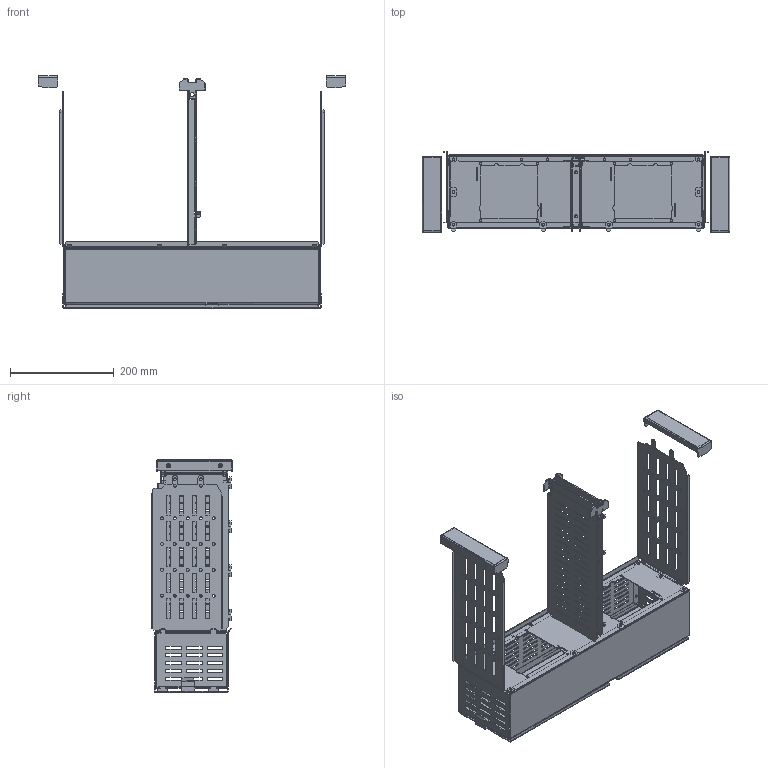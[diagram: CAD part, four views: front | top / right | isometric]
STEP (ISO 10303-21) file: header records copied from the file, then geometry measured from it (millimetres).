
FILE_DESCRIPTION(('CAx-IF Rec.Pracs.---Model Styling and Organization---1.2---2011-12-15','CAx-IF Rec.Pracs.---Geometric and Assembly Validation Properties---4.1---2014-06-16','CAx-IF Rec.Pracs.---PMI Polyline Presentation---2.0---2013-05-24'),'2;1');
FILE_NAME('R5M2W3M2A.stp','2021-05-05T12:13:55+03:00',(''),(''),'STEP Interface 4.4 by CT CoreTechnologie','3D_Evolution4.4 by CT CoreTechnologie','');
FILE_SCHEMA(('AUTOMOTIVE_DESIGN { 1 0 10303 214 1 1 1 1 }'));
Length unit declared in the file: millimetre
Products named in the file (13): R5M2W3M2A; RB.0908.00.00.0_-01; RB.1421.00.00.0_-01; RB.1599.00.00.0_-01; RB.1622.00.00.0_-00; RB.1246.00.00.0_-04; RB.1426.00.00.0_-00; RB.1285.00.00.0_-02; RB.1285.00.00.0_-03; RB.1251.00.00.0_-01 (for assembly); RB.1252.00.00.0_-01; RB.1282.00.00.0_-01; ÒÏÀ.09.0004.00.00.2_¡¥§ § æ¥¯®¢
Assembly tree (17 placements, depth 2):
  R5M2W3M2A
    RB.0908.00.00.0_-01  x2
    RB.1421.00.00.0_-01
    RB.1599.00.00.0_-01
    RB.1622.00.00.0_-00
    RB.1246.00.00.0_-04
    RB.1426.00.00.0_-00  x4
    RB.1285.00.00.0_-02
    RB.1285.00.00.0_-03
    RB.1251.00.00.0_-01 (for assembly)
    RB.1252.00.00.0_-01
    RB.1282.00.00.0_-01
    ÒÏÀ.09.0004.00.00.2_¡¥§ § æ¥¯®¢  x2
Bounding box: 594 x 156 x 448.5 mm (x, y, z)
Surface area: 1044229.8 mm2 (no closed solid volume)
Topology: 0 solids, 19 shells, 2264 faces, 6401 edges, 4149 vertices
Faces by surface type: plane 1656, cylinder 430, bspline 178
Entity records: 68027 total; most frequent: CARTESIAN_POINT 13667, ORIENTED_EDGE 11420, DIRECTION 10358, EDGE_CURVE 5712, VECTOR 4808, LINE 4808, VERTEX_POINT 3728, AXIS2_PLACEMENT_3D 2775
